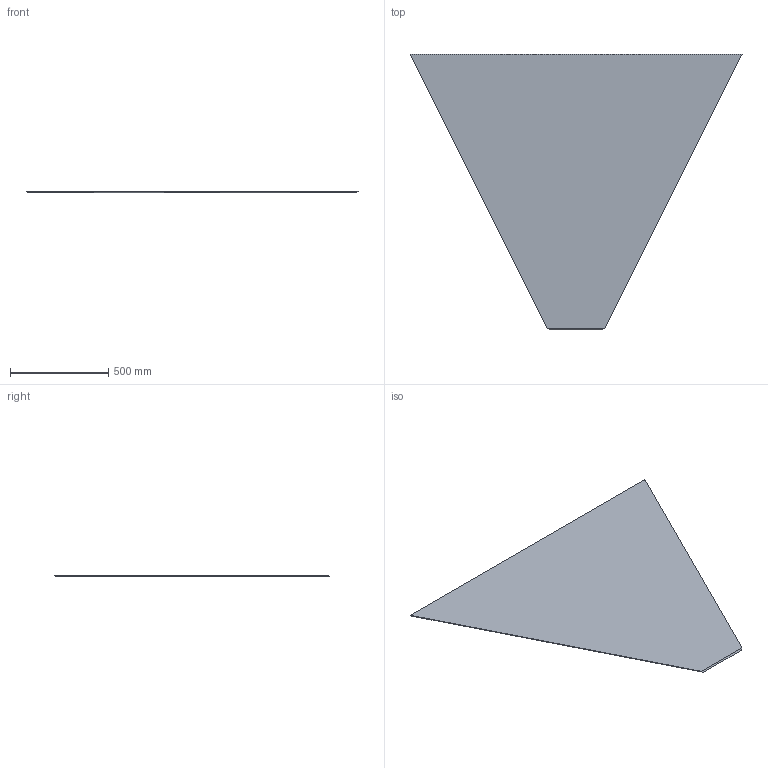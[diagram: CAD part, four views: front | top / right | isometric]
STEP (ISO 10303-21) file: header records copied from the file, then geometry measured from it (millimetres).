
FILE_DESCRIPTION(('Open CASCADE Model'),'2;1');
FILE_NAME('Open CASCADE Shape Model','2026-10-19T10:09:19',('Author'),( 'Open CASCADE'),'Open CASCADE STEP processor 8.0','Open CASCADE 8.0' ,'Unknown');
FILE_SCHEMA(('AUTOMOTIVE_DESIGN { 1 0 10303 214 1 1 1 1 }'));
Length unit declared in the file: millimetre
Products named in the file (1): TOL_PANEL_CONO_8mm 17
Bounding box: 1691.57 x 1404.62 x 8 mm (x, y, z)
Volume: 11002114.1 mm3; surface area: 2800355.7 mm2
Topology: 1 solids, 1 shells, 6 faces, 12 edges, 8 vertices
Faces by surface type: plane 6
Entity records: 322 total; most frequent: CARTESIAN_POINT 51, DIRECTION 50, LINE 36, VECTOR 36, ORIENTED_EDGE 24, PCURVE 24, DEFINITIONAL_REPRESENTATION 24, EDGE_CURVE 12
